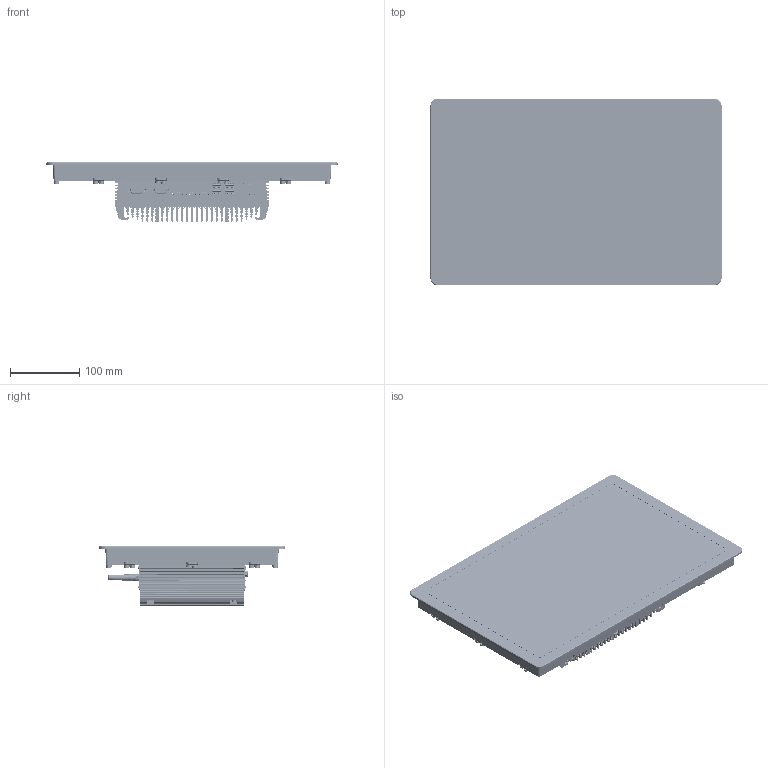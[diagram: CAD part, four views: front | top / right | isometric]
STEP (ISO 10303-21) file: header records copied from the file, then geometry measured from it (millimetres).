
FILE_DESCRIPTION(/* description */ (''),/* implementation_level */ '2;1');
FILE_NAME(/* name */ '15.6总装.stp',/* time_stamp */ '2026-03-05T10:08:59+08:00',/* author */ (''),/* organization */ (''),/* preprocessor_version */ 'ST-DEVELOPER v16',/* originating_system */ 'SIEMENS PLM Software NX 10.0',/* authorisation */ '');
FILE_SCHEMA (('AP203_CONFIGURATION_CONTROLLED_3D_DESIGN_OF_MECHANICAL_PARTS_AND_ASSEMBLIES_MIM_LF { 1 0 10303 403 2 1 2}'));
Products named in the file (1): Admi1FF8C4AFemy8
Bounding box: 420 x 269 x 85.5 mm (x, y, z)
Volume: 1360339.5 mm3; surface area: 943579.2 mm2
Topology: 223 solids, 240 shells, 15058 faces, 39102 edges, 24529 vertices
Faces by surface type: plane 6245, cylinder 5927, bspline 1756, torus 624, cone 388, sphere 118
Full cylindrical faces by diameter (mm): 4.2 x5, 4.5 x14, 5.4 x4, 6 x14, 7 x14
Entity records: 644774 total; most frequent: CARTESIAN_POINT 349123, ORIENTED_EDGE 76982, EDGE_CURVE 38497, DIRECTION 37768, B_SPLINE_CURVE_WITH_KNOTS 27566, VERTEX_POINT 24485, AXIS2_PLACEMENT_3D 16526, EDGE_LOOP 16116
